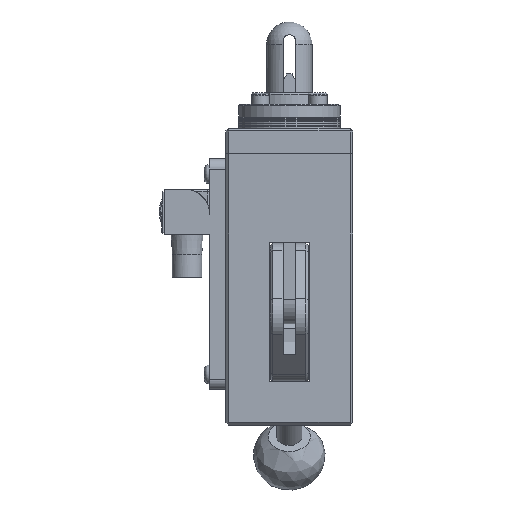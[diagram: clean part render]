
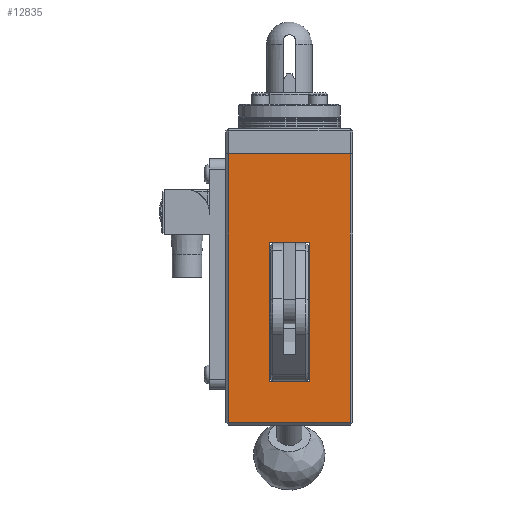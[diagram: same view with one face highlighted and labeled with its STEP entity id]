
A CAD part, left-side view. The second image highlights one B-rep face of the part: STEP entity #12835.
In plain terms, the highlighted planar face has unit normal (-1, 0, 0).
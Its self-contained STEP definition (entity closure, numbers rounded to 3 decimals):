
#376=FACE_BOUND('',#2006,.T.);
#769=PLANE('',#13957);
#1199=FACE_OUTER_BOUND('',#2005,.T.);
#2005=EDGE_LOOP('',(#9332,#9333,#9334,#9335));
#2006=EDGE_LOOP('',(#9336,#9337,#9338,#9339));
#2830=LINE('',#19735,#3760);
#2837=LINE('',#19765,#3767);
#2863=LINE('',#19844,#3793);
#2866=LINE('',#19850,#3796);
#2908=LINE('',#20064,#3838);
#2916=LINE('',#20086,#3846);
#2928=LINE('',#20126,#3858);
#2929=LINE('',#20128,#3859);
#3760=VECTOR('',#15586,10.);
#3767=VECTOR('',#15615,10.);
#3793=VECTOR('',#15691,10.);
#3796=VECTOR('',#15696,10.);
#3838=VECTOR('',#15928,10.);
#3846=VECTOR('',#15950,10.);
#3858=VECTOR('',#15994,10.);
#3859=VECTOR('',#15997,10.);
#5569=VERTEX_POINT('',#19732);
#5570=VERTEX_POINT('',#19734);
#5581=VERTEX_POINT('',#19762);
#5582=VERTEX_POINT('',#19764);
#5610=VERTEX_POINT('',#19842);
#5612=VERTEX_POINT('',#19848);
#5689=VERTEX_POINT('',#20063);
#5696=VERTEX_POINT('',#20085);
#6912=EDGE_CURVE('',#5570,#5569,#2830,.T.);
#6926=EDGE_CURVE('',#5581,#5582,#2837,.T.);
#6963=EDGE_CURVE('',#5610,#5581,#2863,.T.);
#6966=EDGE_CURVE('',#5612,#5610,#2866,.T.);
#7069=EDGE_CURVE('',#5689,#5570,#2908,.T.);
#7079=EDGE_CURVE('',#5696,#5689,#2916,.T.);
#7097=EDGE_CURVE('',#5569,#5696,#2928,.T.);
#7098=EDGE_CURVE('',#5582,#5612,#2929,.T.);
#9332=ORIENTED_EDGE('',*,*,#6963,.F.);
#9333=ORIENTED_EDGE('',*,*,#6966,.F.);
#9334=ORIENTED_EDGE('',*,*,#7098,.F.);
#9335=ORIENTED_EDGE('',*,*,#6926,.F.);
#9336=ORIENTED_EDGE('',*,*,#7069,.T.);
#9337=ORIENTED_EDGE('',*,*,#6912,.T.);
#9338=ORIENTED_EDGE('',*,*,#7097,.T.);
#9339=ORIENTED_EDGE('',*,*,#7079,.T.);
#12835=ADVANCED_FACE('',(#1199,#376),#769,.T.);
#13957=AXIS2_PLACEMENT_3D('',#20127,#15995,#15996);
#15586=DIRECTION('',(0.,0.,1.));
#15615=DIRECTION('',(0.,0.,1.));
#15691=DIRECTION('',(0.,1.,0.));
#15696=DIRECTION('',(0.,0.,-1.));
#15928=DIRECTION('',(0.,1.,0.));
#15950=DIRECTION('',(0.,0.,-1.));
#15994=DIRECTION('',(0.,-1.,0.));
#15995=DIRECTION('center_axis',(-1.,0.,0.));
#15996=DIRECTION('ref_axis',(0.,-1.,0.));
#15997=DIRECTION('',(0.,-1.,0.));
#19732=CARTESIAN_POINT('',(-36.509,7.434,18.5));
#19734=CARTESIAN_POINT('',(-36.509,7.434,-36.5));
#19735=CARTESIAN_POINT('',(-36.509,7.434,-45.));
#19762=CARTESIAN_POINT('',(-36.509,23.434,-52.5));
#19764=CARTESIAN_POINT('',(-36.509,23.434,53.5));
#19765=CARTESIAN_POINT('',(-36.509,23.434,-53.5));
#19842=CARTESIAN_POINT('',(-36.509,-24.566,-52.5));
#19844=CARTESIAN_POINT('',(-36.509,-6.816,-52.5));
#19848=CARTESIAN_POINT('',(-36.509,-24.566,53.5));
#19850=CARTESIAN_POINT('',(-36.509,-24.566,-53.5));
#20063=CARTESIAN_POINT('',(-36.509,-8.566,-36.5));
#20064=CARTESIAN_POINT('',(-36.509,-0.566,-36.5));
#20085=CARTESIAN_POINT('',(-36.509,-8.566,18.5));
#20086=CARTESIAN_POINT('',(-36.509,-8.566,-45.));
#20126=CARTESIAN_POINT('',(-36.509,-4.566,18.5));
#20127=CARTESIAN_POINT('Origin',(-36.509,-0.566,-53.5));
#20128=CARTESIAN_POINT('',(-36.509,-0.566,53.5));
